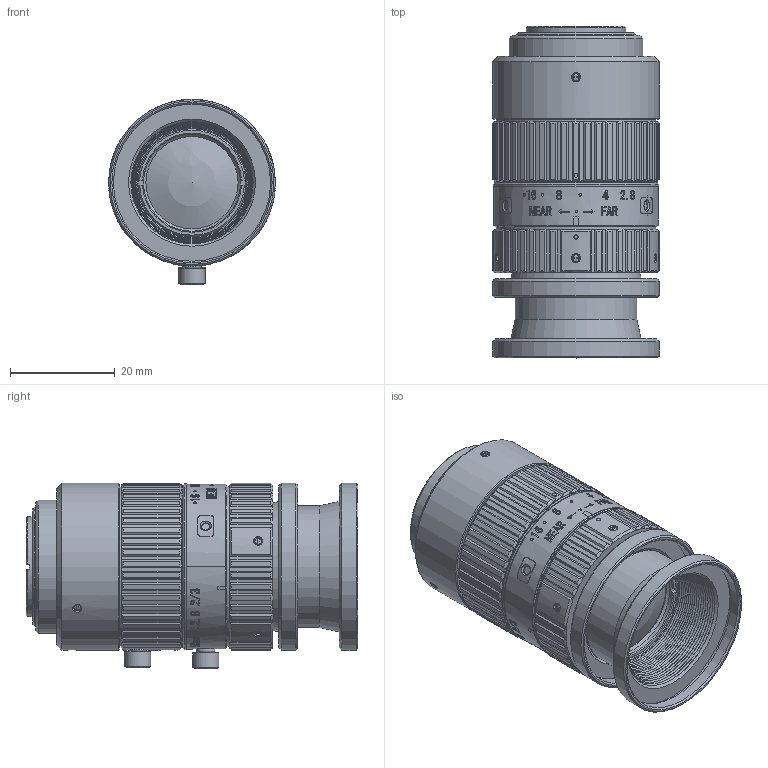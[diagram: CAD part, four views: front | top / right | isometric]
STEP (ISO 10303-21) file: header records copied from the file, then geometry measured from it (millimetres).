
FILE_DESCRIPTION(/* description */ ('Unknown'),/* implementation_level */ '2;1');
FILE_NAME(/* name */ 'M5028-MPX_Outline_231222',/* time_stamp */ '2023-12-21T10:50:19+09:00',/* author */ ('Unknown'),/* organization */ ('Unknown'),/* preprocessor_version */ 'ST-DEVELOPER v18.102',/* originating_system */ 'Solid Edge',/* authorisation */ 'Unknown');
FILE_SCHEMA (('AUTOMOTIVE_DESIGN {1 0 10303 214 3 1 1}'));
Products named in the file (6): M5028-MPX_Outline_231222; Name-Seal; Lock_screw; M5028MPX_Barrel-Unit; M5028MPX_Lens unit_inf; M5028MPX_Lens unit_mod
Assembly tree (6 placements, depth 2):
  M5028-MPX_Outline_231222
    Name-Seal
    Lock_screw  x2
    M5028MPX_Barrel-Unit
    M5028MPX_Lens unit_inf
    M5028MPX_Lens unit_mod
Bounding box: 31.8 x 63.25 x 35.35 mm (x, y, z)
Volume: 56907.2 mm3; surface area: 23777.5 mm2
Topology: 19 solids, 21 shells, 1269 faces, 3262 edges, 2142 vertices
Faces by surface type: plane 663, cylinder 257, bspline 173, cone 154, sphere 20, torus 2
Full cylindrical faces by diameter (mm): 0.8 x2, 1.321 x8, 1.5 x2, 1.567 x3, 2 x3, 2.4 x1, 2.8 x1, 3 x1, 4.5 x1, 4.999 x2, 12.05 x2, 17.6 x2, 18.5 x2, 19 x2, 19.2 x3, 19.459 x1, 20 x2, 20.1 x1, 20.8 x4, 21 x1, 21.4 x2, 21.5 x2, 22.6 x1, 22.65 x1, 23.2 x2, 25.4 x1, 25.5 x1, 29.959 x2, 30.4 x3, 30.5 x2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
Entity records: 55502 total; most frequent: CARTESIAN_POINT 19078, ORIENTED_EDGE 5936, DIRECTION 4948, EDGE_CURVE 2968, VERTEX_POINT 2067, AXIS2_PLACEMENT_3D 1899, FACE_BOUND 1579, EDGE_LOOP 1578
